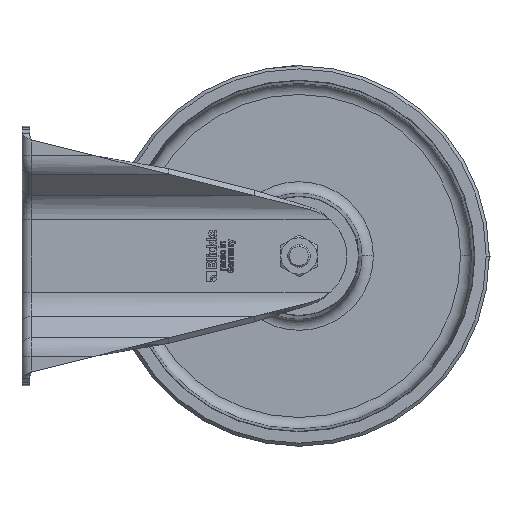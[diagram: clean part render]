
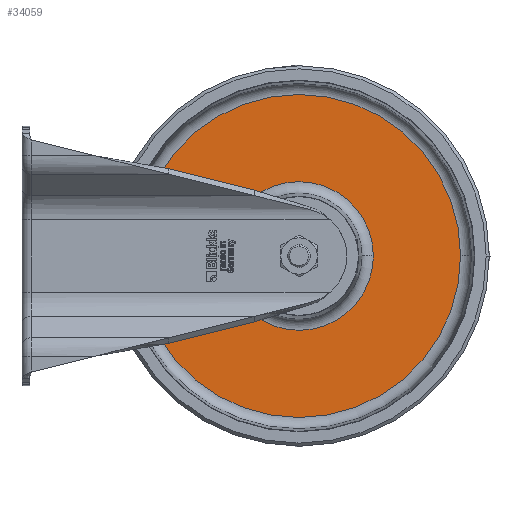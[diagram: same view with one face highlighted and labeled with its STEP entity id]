
A CAD part, left-side view. The second image highlights one B-rep face of the part: STEP entity #34059.
In plain terms, the highlighted planar face has unit normal (-1, 0, 0).
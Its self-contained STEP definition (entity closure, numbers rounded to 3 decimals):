
#31 = CARTESIAN_POINT ( 'NONE',  ( -4., 0., 0. ) ) ;
#897 = CARTESIAN_POINT ( 'NONE',  ( -4., 0., 0. ) ) ;
#972 = AXIS2_PLACEMENT_3D ( 'NONE', #59979, #19894, #71205 ) ;
#2782 = ORIENTED_EDGE ( 'NONE', *, *, #6545, .T. ) ;
#2957 = PLANE ( 'NONE',  #52099 ) ;
#6545 = EDGE_CURVE ( 'NONE', #53524, #32072, #33508, .T. ) ;
#10493 = CARTESIAN_POINT ( 'NONE',  ( -4., 38.904, -0.115 ) ) ;
#15818 = FACE_OUTER_BOUND ( 'NONE', #26517, .T. ) ;
#17130 = DIRECTION ( 'NONE',  ( 0., 1., 0. ) ) ;
#19894 = DIRECTION ( 'NONE',  ( 1., 0., 0. ) ) ;
#20398 = ORIENTED_EDGE ( 'NONE', *, *, #65439, .F. ) ;
#23624 = CARTESIAN_POINT ( 'NONE',  ( -4., 84.533, -0.25 ) ) ;
#24424 = ORIENTED_EDGE ( 'NONE', *, *, #39875, .T. ) ;
#26250 = CARTESIAN_POINT ( 'NONE',  ( -4., -38.904, 0.115 ) ) ;
#26460 = CIRCLE ( 'NONE', #55540, 84.534 ) ;
#26517 = EDGE_LOOP ( 'NONE', ( #20398, #54117 ) ) ;
#28982 = DIRECTION ( 'NONE',  ( 0., 1., 0. ) ) ;
#31969 = AXIS2_PLACEMENT_3D ( 'NONE', #31, #33951, #39434 ) ;
#32072 = VERTEX_POINT ( 'NONE', #10493 ) ;
#33508 = CIRCLE ( 'NONE', #31969, 38.904 ) ;
#33839 = CARTESIAN_POINT ( 'NONE',  ( -4., -84.533, 0.25 ) ) ;
#33866 = DIRECTION ( 'NONE',  ( 1., 0., 0. ) ) ;
#33951 = DIRECTION ( 'NONE',  ( 1., 0., 0. ) ) ;
#34059 = ADVANCED_FACE ( 'NONE', ( #15818, #61254 ), #2957, .F. ) ;
#34946 = CARTESIAN_POINT ( 'NONE',  ( -4., 0., 0. ) ) ;
#39434 = DIRECTION ( 'NONE',  ( 0., 1., 0. ) ) ;
#39590 = DIRECTION ( 'NONE',  ( 0., 1., 0. ) ) ;
#39875 = EDGE_CURVE ( 'NONE', #32072, #53524, #70190, .T. ) ;
#40117 = VERTEX_POINT ( 'NONE', #33839 ) ;
#40677 = DIRECTION ( 'NONE',  ( 1., 0., 0. ) ) ;
#46887 = EDGE_CURVE ( 'NONE', #56570, #40117, #26460, .T. ) ;
#52099 = AXIS2_PLACEMENT_3D ( 'NONE', #62204, #33866, #39590 ) ;
#53524 = VERTEX_POINT ( 'NONE', #26250 ) ;
#53817 = AXIS2_PLACEMENT_3D ( 'NONE', #34946, #40677, #28982 ) ;
#54117 = ORIENTED_EDGE ( 'NONE', *, *, #46887, .F. ) ;
#55540 = AXIS2_PLACEMENT_3D ( 'NONE', #897, #68894, #17130 ) ;
#56570 = VERTEX_POINT ( 'NONE', #23624 ) ;
#59979 = CARTESIAN_POINT ( 'NONE',  ( -4., 0., 0. ) ) ;
#61254 = FACE_BOUND ( 'NONE', #70419, .T. ) ;
#62204 = CARTESIAN_POINT ( 'NONE',  ( -4., 0., 0. ) ) ;
#64801 = CIRCLE ( 'NONE', #53817, 84.534 ) ;
#65439 = EDGE_CURVE ( 'NONE', #40117, #56570, #64801, .T. ) ;
#68894 = DIRECTION ( 'NONE',  ( 1., 0., 0. ) ) ;
#70190 = CIRCLE ( 'NONE', #972, 38.904 ) ;
#70419 = EDGE_LOOP ( 'NONE', ( #24424, #2782 ) ) ;
#71205 = DIRECTION ( 'NONE',  ( 0., 1., 0. ) ) ;
